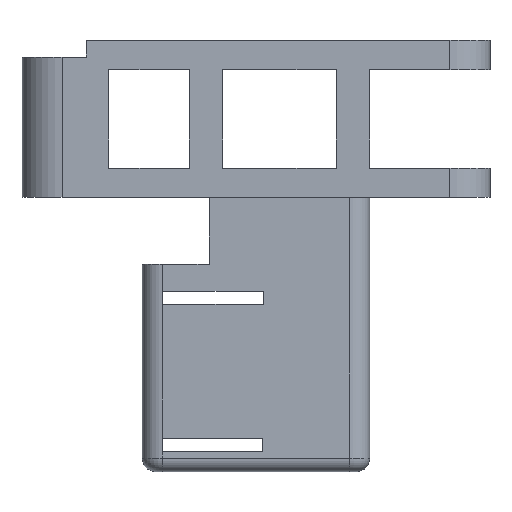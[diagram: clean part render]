
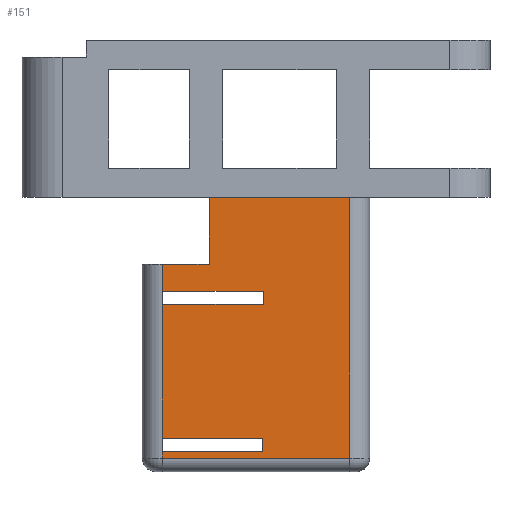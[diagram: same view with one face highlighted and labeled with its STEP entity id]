
A CAD part, left-side view. The second image highlights one B-rep face of the part: STEP entity #151.
In plain terms, the highlighted planar face has unit normal (-1, 0, 0).
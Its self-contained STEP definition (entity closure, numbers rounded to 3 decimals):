
#6 = VECTOR ( 'NONE', #1501, 1000. ) ;
#22 = CARTESIAN_POINT ( 'NONE',  ( 7., 43., -65.5 ) ) ;
#35 = EDGE_CURVE ( 'NONE', #885, #1182, #1110, .T. ) ;
#65 = LINE ( 'NONE', #709, #1641 ) ;
#87 = EDGE_CURVE ( 'NONE', #377, #237, #692, .T. ) ;
#90 = VERTEX_POINT ( 'NONE', #670 ) ;
#102 = CARTESIAN_POINT ( 'NONE',  ( 7., 36., -40.5 ) ) ;
#111 = CARTESIAN_POINT ( 'NONE',  ( 7., 42.933, -38.5 ) ) ;
#112 = DIRECTION ( 'NONE',  ( 0., 0., 1. ) ) ;
#121 = DIRECTION ( 'NONE',  ( 0., -1., 0. ) ) ;
#145 = VECTOR ( 'NONE', #112, 1000. ) ;
#146 = ORIENTED_EDGE ( 'NONE', *, *, #1579, .T. ) ;
#151 = ADVANCED_FACE ( 'NONE', ( #1122, #182 ), #1705, .F. ) ;
#170 = DIRECTION ( 'NONE',  ( 0., 1., 0. ) ) ;
#182 = FACE_OUTER_BOUND ( 'NONE', #1165, .T. ) ;
#189 = DIRECTION ( 'NONE',  ( 0., -1., 0. ) ) ;
#192 = ORIENTED_EDGE ( 'NONE', *, *, #195, .T. ) ;
#195 = EDGE_CURVE ( 'NONE', #1454, #541, #337, .T. ) ;
#214 = VERTEX_POINT ( 'NONE', #1392 ) ;
#221 = CARTESIAN_POINT ( 'NONE',  ( 7., 36., -24.5 ) ) ;
#237 = VERTEX_POINT ( 'NONE', #1672 ) ;
#244 = LINE ( 'NONE', #1340, #145 ) ;
#248 = EDGE_CURVE ( 'NONE', #1182, #893, #65, .T. ) ;
#249 = CARTESIAN_POINT ( 'NONE',  ( 7., 42.933, -65.5 ) ) ;
#277 = VERTEX_POINT ( 'NONE', #111 ) ;
#315 = VECTOR ( 'NONE', #1507, 1000. ) ;
#319 = CARTESIAN_POINT ( 'NONE',  ( 7., 15., -63.5 ) ) ;
#330 = CARTESIAN_POINT ( 'NONE',  ( 7., 15., -63.5 ) ) ;
#332 = ORIENTED_EDGE ( 'NONE', *, *, #87, .T. ) ;
#334 = CARTESIAN_POINT ( 'NONE',  ( 7., 28., -65.5 ) ) ;
#337 = LINE ( 'NONE', #330, #491 ) ;
#350 = VECTOR ( 'NONE', #714, 1000. ) ;
#359 = DIRECTION ( 'NONE',  ( 0., 1., 0. ) ) ;
#377 = VERTEX_POINT ( 'NONE', #1621 ) ;
#380 = CARTESIAN_POINT ( 'NONE',  ( 7., 36., -62.5 ) ) ;
#393 = EDGE_CURVE ( 'NONE', #1256, #1517, #1594, .T. ) ;
#398 = CARTESIAN_POINT ( 'NONE',  ( 7., 36., -34.5 ) ) ;
#400 = LINE ( 'NONE', #249, #1697 ) ;
#430 = ORIENTED_EDGE ( 'NONE', *, *, #248, .F. ) ;
#433 = VECTOR ( 'NONE', #1738, 1000. ) ;
#491 = VECTOR ( 'NONE', #189, 1000. ) ;
#493 = EDGE_CURVE ( 'NONE', #1517, #277, #400, .T. ) ;
#522 = AXIS2_PLACEMENT_3D ( 'NONE', #1398, #1292, #170 ) ;
#541 = VERTEX_POINT ( 'NONE', #319 ) ;
#542 = LINE ( 'NONE', #656, #837 ) ;
#566 = DIRECTION ( 'NONE',  ( 0., 0., -1. ) ) ;
#596 = ORIENTED_EDGE ( 'NONE', *, *, #974, .T. ) ;
#655 = LINE ( 'NONE', #956, #6 ) ;
#656 = CARTESIAN_POINT ( 'NONE',  ( 7., 46., -34.5 ) ) ;
#670 = CARTESIAN_POINT ( 'NONE',  ( 7., 43., -62.5 ) ) ;
#676 = CARTESIAN_POINT ( 'NONE',  ( 7., 36., -65.5 ) ) ;
#679 = DIRECTION ( 'NONE',  ( 0., -1., 0. ) ) ;
#691 = VECTOR ( 'NONE', #359, 1000. ) ;
#692 = LINE ( 'NONE', #816, #1262 ) ;
#697 = CARTESIAN_POINT ( 'NONE',  ( 7., 36., -38.5 ) ) ;
#709 = CARTESIAN_POINT ( 'NONE',  ( 7., 36., -24.5 ) ) ;
#714 = DIRECTION ( 'NONE',  ( 0., -1., 0. ) ) ;
#741 = VERTEX_POINT ( 'NONE', #1742 ) ;
#816 = CARTESIAN_POINT ( 'NONE',  ( 7., 36., -60.5 ) ) ;
#837 = VECTOR ( 'NONE', #679, 1000. ) ;
#855 = EDGE_CURVE ( 'NONE', #214, #885, #542, .T. ) ;
#885 = VERTEX_POINT ( 'NONE', #398 ) ;
#893 = VERTEX_POINT ( 'NONE', #1649 ) ;
#898 = LINE ( 'NONE', #334, #1353 ) ;
#941 = ORIENTED_EDGE ( 'NONE', *, *, #1054, .T. ) ;
#956 = CARTESIAN_POINT ( 'NONE',  ( 7., 43., -65.5 ) ) ;
#961 = CARTESIAN_POINT ( 'NONE',  ( 7., 28., -62.5 ) ) ;
#972 = ORIENTED_EDGE ( 'NONE', *, *, #35, .F. ) ;
#974 = EDGE_CURVE ( 'NONE', #277, #741, #993, .T. ) ;
#984 = VECTOR ( 'NONE', #566, 1000. ) ;
#993 = LINE ( 'NONE', #697, #350 ) ;
#998 = CARTESIAN_POINT ( 'NONE',  ( 7., 43., -63.5 ) ) ;
#1051 = ORIENTED_EDGE ( 'NONE', *, *, #393, .T. ) ;
#1054 = EDGE_CURVE ( 'NONE', #237, #1598, #898, .T. ) ;
#1073 = ORIENTED_EDGE ( 'NONE', *, *, #1486, .T. ) ;
#1079 = EDGE_LOOP ( 'NONE', ( #1114, #596, #1073, #1051 ) ) ;
#1085 = CARTESIAN_POINT ( 'NONE',  ( 7., 27.933, -40.5 ) ) ;
#1110 = LINE ( 'NONE', #676, #315 ) ;
#1114 = ORIENTED_EDGE ( 'NONE', *, *, #493, .T. ) ;
#1122 = FACE_BOUND ( 'NONE', #1079, .T. ) ;
#1165 = EDGE_LOOP ( 'NONE', ( #1597, #192, #146, #430, #972, #1421, #1675, #332, #941, #1654 ) ) ;
#1182 = VERTEX_POINT ( 'NONE', #221 ) ;
#1200 = DIRECTION ( 'NONE',  ( 0., 1., 0. ) ) ;
#1246 = LINE ( 'NONE', #22, #984 ) ;
#1253 = DIRECTION ( 'NONE',  ( 0., -1., 0. ) ) ;
#1256 = VERTEX_POINT ( 'NONE', #1085 ) ;
#1262 = VECTOR ( 'NONE', #121, 1000. ) ;
#1292 = DIRECTION ( 'NONE',  ( 1., 0., 0. ) ) ;
#1302 = EDGE_CURVE ( 'NONE', #90, #1454, #655, .T. ) ;
#1306 = DIRECTION ( 'NONE',  ( 0., 0., -1. ) ) ;
#1310 = LINE ( 'NONE', #380, #1667 ) ;
#1312 = EDGE_CURVE ( 'NONE', #214, #377, #1246, .T. ) ;
#1340 = CARTESIAN_POINT ( 'NONE',  ( 7., 15., -65.5 ) ) ;
#1353 = VECTOR ( 'NONE', #1306, 1000. ) ;
#1392 = CARTESIAN_POINT ( 'NONE',  ( 7., 43., -34.5 ) ) ;
#1398 = CARTESIAN_POINT ( 'NONE',  ( 7., 36., -65.5 ) ) ;
#1421 = ORIENTED_EDGE ( 'NONE', *, *, #855, .F. ) ;
#1448 = CARTESIAN_POINT ( 'NONE',  ( 7., 27.933, -65.5 ) ) ;
#1454 = VERTEX_POINT ( 'NONE', #998 ) ;
#1476 = CARTESIAN_POINT ( 'NONE',  ( 7., 42.933, -40.5 ) ) ;
#1486 = EDGE_CURVE ( 'NONE', #741, #1256, #1595, .T. ) ;
#1498 = DIRECTION ( 'NONE',  ( 0., 0., 1. ) ) ;
#1501 = DIRECTION ( 'NONE',  ( 0., 0., -1. ) ) ;
#1507 = DIRECTION ( 'NONE',  ( 0., 0., 1. ) ) ;
#1510 = EDGE_CURVE ( 'NONE', #1598, #90, #1310, .T. ) ;
#1517 = VERTEX_POINT ( 'NONE', #1476 ) ;
#1579 = EDGE_CURVE ( 'NONE', #541, #893, #244, .T. ) ;
#1594 = LINE ( 'NONE', #102, #691 ) ;
#1595 = LINE ( 'NONE', #1448, #433 ) ;
#1597 = ORIENTED_EDGE ( 'NONE', *, *, #1302, .T. ) ;
#1598 = VERTEX_POINT ( 'NONE', #961 ) ;
#1621 = CARTESIAN_POINT ( 'NONE',  ( 7., 43., -60.5 ) ) ;
#1641 = VECTOR ( 'NONE', #1253, 1000. ) ;
#1649 = CARTESIAN_POINT ( 'NONE',  ( 7., 15., -24.5 ) ) ;
#1654 = ORIENTED_EDGE ( 'NONE', *, *, #1510, .T. ) ;
#1667 = VECTOR ( 'NONE', #1200, 1000. ) ;
#1672 = CARTESIAN_POINT ( 'NONE',  ( 7., 28., -60.5 ) ) ;
#1675 = ORIENTED_EDGE ( 'NONE', *, *, #1312, .T. ) ;
#1697 = VECTOR ( 'NONE', #1498, 1000. ) ;
#1705 = PLANE ( 'NONE',  #522 ) ;
#1738 = DIRECTION ( 'NONE',  ( 0., 0., -1. ) ) ;
#1742 = CARTESIAN_POINT ( 'NONE',  ( 7., 27.933, -38.5 ) ) ;
